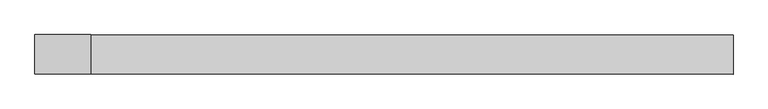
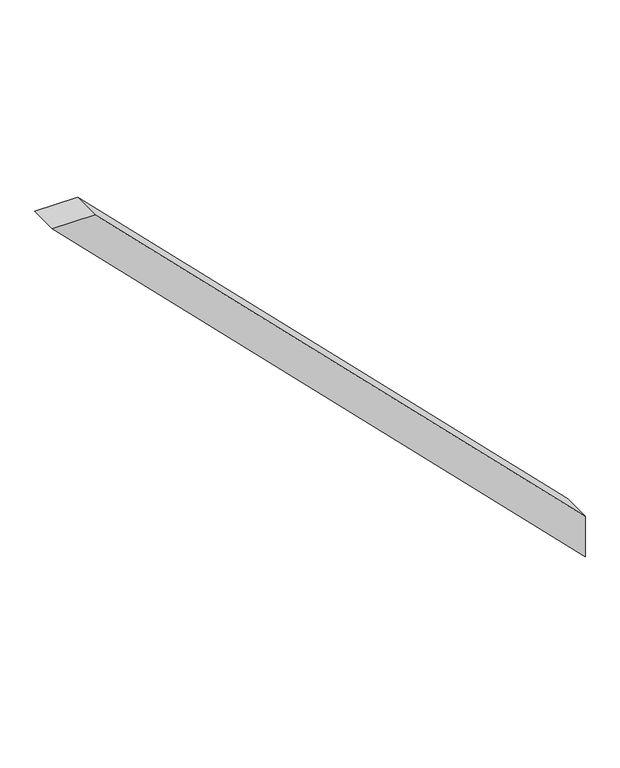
"""IFC4 building model written with IfcOpenShell, lengths in millimetres: proxy geometry, Modelos genéricos 101 : Modelos genéricos 23."""

import ifcopenshell
import ifcopenshell.guid

model = None  # the IFC model being written
_history = None  # IfcOwnerHistory: only IFC2X3 demands one
_inside = {}  # id of a spatial element -> (the spatial element, [elements in it])
_under = {}  # id of a project, library or spatial element -> (it, [spatial elements below it])
_declared = {}  # id of a project -> (the project, [libraries it declares])
_typed = {}  # id of a type object -> (the type object, [elements of that type])
_made_of = {}  # id of a material, layer set ... -> (it, [elements and type objects made of it])


def new_model(schema):
    """Start an empty IFC model of exactly this schema.

    Asked for "IFC4X3", IfcOpenShell would pick the latest addendum, in which some entities
    have other attributes; the version numbers below select the first issue.
    IFC2X3 requires an IfcOwnerHistory on every rooted entity: one is made here for all.
    """
    global model, _history
    if schema == "IFC4X3":
        model = ifcopenshell.file(schema_version=(4, 3, 0, 0))
    else:
        model = ifcopenshell.file(schema=schema)
    _inside.clear()
    _under.clear()
    _declared.clear()
    _typed.clear()
    _made_of.clear()
    _history = None
    if model.schema == "IFC2X3":
        org = make("IfcOrganization", Name="unknown")
        user = make(
            "IfcPersonAndOrganization",
            ThePerson=make("IfcPerson", FamilyName="unknown"),
            TheOrganization=org,
        )
        app = make(
            "IfcApplication",
            ApplicationDeveloper=org,
            Version="unknown",
            ApplicationFullName="unknown",
            ApplicationIdentifier="unknown",
        )
        _history = make(
            "IfcOwnerHistory",
            OwningUser=user,
            OwningApplication=app,
            ChangeAction="ADDED",
            CreationDate=0,
        )
    return model


def make(cls, **values):
    """One entity of the class cls with the attributes given. An attribute that is None is left unset."""
    return model.create_entity(
        cls, **{name: value for name, value in values.items() if value is not None}
    )


def rooted(cls, **values):
    """An entity with a GlobalId (a new one), such as an element, a storey or a relation."""
    return make(cls, GlobalId=ifcopenshell.guid.new(), OwnerHistory=_history, **values)


def si_unit(unit_type, name, prefix=None):
    """IfcSIUnit, for example si_unit("LENGTHUNIT", "METRE", prefix="MILLI")."""
    return make("IfcSIUnit", UnitType=unit_type, Prefix=prefix, Name=name)


def assignment(units):
    """IfcUnitAssignment: the units of a project."""
    return None if units is None else make("IfcUnitAssignment", Units=units)


def point(xyz):
    """IfcCartesianPoint."""
    return None if xyz is None else make("IfcCartesianPoint", Coordinates=xyz)


def direction(xyz):
    """IfcDirection."""
    return None if xyz is None else make("IfcDirection", DirectionRatios=xyz)


def frame(location, z_axis=None, x_axis=None):
    """IfcAxis2Placement3D, a coordinate frame: its origin and axes. An axis left out is left unset."""
    return make(
        "IfcAxis2Placement3D",
        Location=point(location),
        Axis=direction(z_axis),
        RefDirection=direction(x_axis),
    )


def origin():
    """The frame at (0, 0, 0) with its axes left unset."""
    return frame((0.0, 0.0, 0.0))


def place(relative_to, where):
    """IfcLocalPlacement: puts the frame where relative to a parent placement (None: the world)."""
    return make(
        "IfcLocalPlacement", PlacementRelTo=relative_to, RelativePlacement=where
    )


def context(
    kind, dimensions, precision=None, world=None, true_north=None, identifier=None
):
    """IfcGeometricRepresentationContext, for example the 3D "Model" context."""
    return make(
        "IfcGeometricRepresentationContext",
        ContextIdentifier=identifier,
        ContextType=kind,
        CoordinateSpaceDimension=dimensions,
        Precision=precision,
        WorldCoordinateSystem=world,
        TrueNorth=true_north,
    )


def project(units=None, contexts=None):
    """IfcProject with its units and contexts."""
    return rooted(
        "IfcProject",
        Name="project",
        RepresentationContexts=contexts,
        UnitsInContext=assignment(units),
    )


def spatial(cls, under=None, at=None, **own):
    """A site, building, storey or space (cls), placed at a placement, below another one or the project."""
    s = rooted(cls, ObjectPlacement=at, **own)
    if under is not None:
        _under.setdefault(under.id(), (under, []))[1].append(s)
    return s


def polyline(points):
    """IfcPolyline through the points."""
    return make("IfcPolyline", Points=[point(p) for p in points])


def outline(outer, holes=None, kind="AREA"):
    """IfcArbitraryClosedProfileDef: a profile drawn as a closed curve; with holes, ...WithVoids."""
    if holes is None:
        return make("IfcArbitraryClosedProfileDef", ProfileType=kind, OuterCurve=outer)
    return make(
        "IfcArbitraryProfileDefWithVoids",
        ProfileType=kind,
        OuterCurve=outer,
        InnerCurves=holes,
    )


def extrude(swept, where, along, depth):
    """IfcExtrudedAreaSolid: the profile swept, set in the frame where, extruded along a direction by depth."""
    return make(
        "IfcExtrudedAreaSolid",
        SweptArea=swept,
        Position=where,
        ExtrudedDirection=direction(along),
        Depth=depth,
    )


def shape(context_of_items, identifier, shape_type, items):
    """IfcShapeRepresentation: the items that make up one representation, for example the "Body"."""
    return make(
        "IfcShapeRepresentation",
        ContextOfItems=context_of_items,
        RepresentationIdentifier=identifier,
        RepresentationType=shape_type,
        Items=items,
    )


def source(mapping_origin, context_of_items, identifier, shape_type, items):
    """IfcRepresentationMap: a shape defined once, which mapped items show again and again."""
    return make(
        "IfcRepresentationMap",
        MappingOrigin=mapping_origin,
        MappedRepresentation=shape(context_of_items, identifier, shape_type, items),
    )


def transform(
    local_origin,
    x_axis=None,
    y_axis=None,
    z_axis=None,
    scale=None,
    scale2=None,
    scale3=None,
    uniform=True,
):
    """IfcCartesianTransformationOperator3D, or its non-uniform kind. x_axis, y_axis, z_axis: its Axis1, 2, 3."""
    if uniform:
        return make(
            "IfcCartesianTransformationOperator3D",
            Axis1=direction(x_axis),
            Axis2=direction(y_axis),
            LocalOrigin=point(local_origin),
            Scale=scale,
            Axis3=direction(z_axis),
        )
    return make(
        "IfcCartesianTransformationOperator3DnonUniform",
        Axis1=direction(x_axis),
        Axis2=direction(y_axis),
        LocalOrigin=point(local_origin),
        Scale=scale,
        Axis3=direction(z_axis),
        Scale2=scale2,
        Scale3=scale3,
    )


def mapped(mapping_source, mapping_target):
    """IfcMappedItem: shows the shape of a source again, moved by a transform."""
    return make(
        "IfcMappedItem", MappingSource=mapping_source, MappingTarget=mapping_target
    )


def made_of(thing, what):
    """Note that an element or type object is made of a material, layer set ...; save() writes the relation."""
    if what is not None:
        _made_of.setdefault(what.id(), (what, []))[1].append(thing)
    return thing


def element(
    cls,
    number,
    at=None,
    inside=None,
    cuts=None,
    type_object=None,
    material=None,
    context=None,
    identifier="Body",
    shape_type=None,
    held_by="IfcProductDefinitionShape",
    body=None,
    shapes=None,
    **own,
):
    """One element of the class cls, such as IfcWall. Its Tag is "e" and its number.

    at: its placement. inside: the storey or other place that contains it. cuts: it is an
    opening in that element (IfcRelVoidsElement). A single representation is given by context,
    identifier, shape_type and body (its items); several are given by shapes. held_by: the class
    of the entity that holds the representations. save() writes the other relations.
    """
    e = rooted(cls, Tag="e%d" % number, ObjectPlacement=at, **own)
    if body is not None:
        shapes = [shape(context, identifier, shape_type, body)]
    if shapes is not None:
        e.Representation = make(held_by, Representations=shapes)
    if inside is not None:
        _inside.setdefault(inside.id(), (inside, []))[1].append(e)
    if cuts is not None:
        rooted(
            "IfcRelVoidsElement", RelatingBuildingElement=cuts, RelatedOpeningElement=e
        )
    if type_object is not None:
        _typed.setdefault(type_object.id(), (type_object, []))[1].append(e)
    return made_of(e, material)


def aggregate(whole, parts):
    """IfcRelAggregates: a whole, such as a stair, and the parts it consists of."""
    return rooted("IfcRelAggregates", RelatingObject=whole, RelatedObjects=parts)


def save(model, path):
    """Write the relations noted so far, then the file.

    IfcRelAggregates (storeys below a building ...), IfcRelContainedInSpatialStructure (elements
    in a storey), IfcRelDefinesByType, IfcRelAssociatesMaterial and IfcRelDeclares: one each for
    every whole, place, type object, material and project.
    """
    for whole, parts in _under.values():
        aggregate(whole, parts)
    for where, things in _inside.values():
        rooted(
            "IfcRelContainedInSpatialStructure",
            RelatedElements=things,
            RelatingStructure=where,
        )
    for kind, things in _typed.values():
        rooted("IfcRelDefinesByType", RelatedObjects=things, RelatingType=kind)
    for what, things in _made_of.values():
        rooted("IfcRelAssociatesMaterial", RelatedObjects=things, RelatingMaterial=what)
    for by, libraries in _declared.values():
        rooted("IfcRelDeclares", RelatingContext=by, RelatedDefinitions=libraries)
    model.write(path)


def generic_models_5cceeb7a(model_context):
    return source(origin(), model_context, "Body", "SweptSolid", [
        extrude(outline(polyline([(4220.0, 43263.6573028), (3160.0, 44323.6573028), (3244.8528137, 44323.6573028), (4220.0, 43348.5101165), (4220.0, 43263.6573028)])), frame((0.0, 1918.6238165, 0.0), z_axis=(0.0, 1.0, 0.0), x_axis=(0.0, 0.0, 1.0)), (0.0, 0.0, 1.0), 60.0),
    ])


if __name__ == "__main__":
    model = new_model("IFC4")
    model_context = context("Model", 3, world=origin())
    ifc_project = project(units=[si_unit("LENGTHUNIT", "METRE", prefix="MILLI")], contexts=[model_context])
    site = spatial("IfcSite", under=ifc_project)
    building = spatial("IfcBuilding", under=site)
    placement = place(None, origin())
    generic_models_shape = generic_models_5cceeb7a(model_context)
    element("IfcBuildingElementProxy", 1, Name="Modelos genéricos 101 : Modelos genéricos 23", ObjectType="Modelos genéricos 101 : Modelos genéricos 23", at=placement, inside=building, context=model_context, shape_type="MappedRepresentation", body=[
        mapped(generic_models_shape, transform((0.0, 0.0, 0.0), x_axis=(1.0, 0.0, 0.0), y_axis=(0.0, 1.0, 0.0), z_axis=(0.0, 0.0, 1.0))),
    ])
    save(model, "model.ifc")
